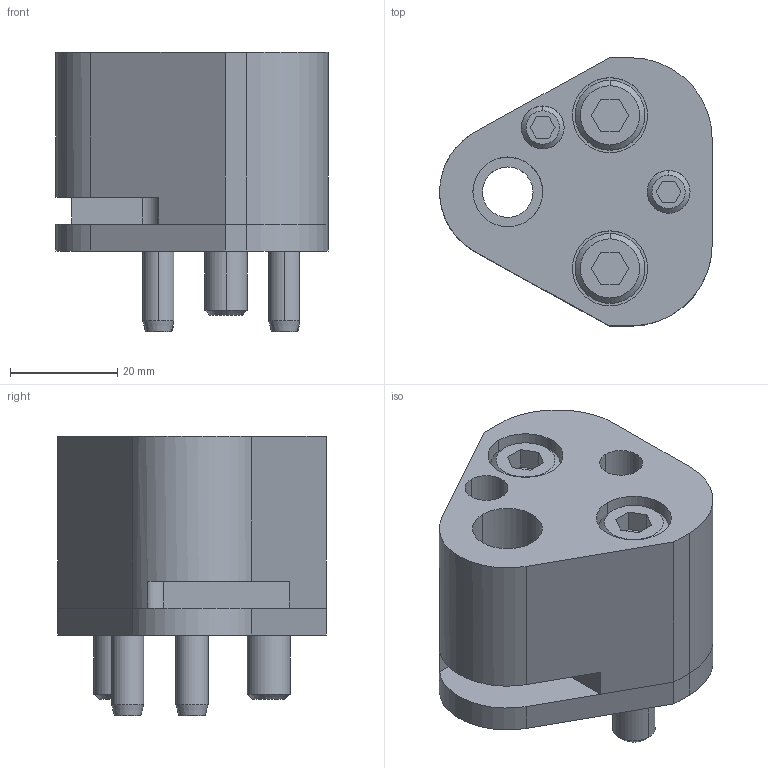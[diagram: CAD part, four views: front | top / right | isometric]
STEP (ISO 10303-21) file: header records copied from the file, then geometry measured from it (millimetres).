
FILE_DESCRIPTION(/* description */ (''),/* implementation_level */ '2;1');
FILE_NAME(/* name */ '3d_crn-fd13_03646_r00.stp',/* time_stamp */ '2011-01-10T14:16:22+09:00',/* author */ ('MISUMI'),/* organization */ (''),/* preprocessor_version */ 'ST-DEVELOPER v11',/* originating_system */ 'UGS - NX 5.0',/* authorisation */ '');
FILE_SCHEMA (('CONFIG_CONTROL_DESIGN'));
Length unit declared in the file: millimetre
Products named in the file (1): 3d_crn-fd13_03646_r00
Bounding box: 50.77 x 50 x 52 mm (x, y, z)
Volume: 61760.9 mm3; surface area: 22836.1 mm2
Topology: 8 solids, 8 shells, 156 faces, 358 edges, 231 vertices
Faces by surface type: plane 69, cylinder 61, cone 26
Entity records: 4585 total; most frequent: DIRECTION 815, CARTESIAN_POINT 805, ORIENTED_EDGE 716, EDGE_CURVE 358, AXIS2_PLACEMENT_3D 307, VERTEX_POINT 231, LINE 201, VECTOR 201
